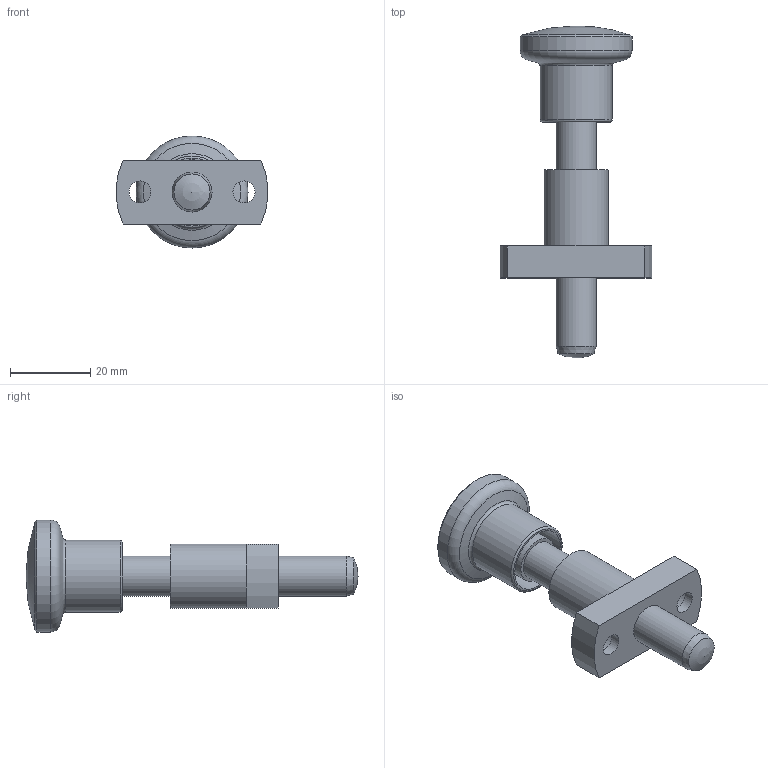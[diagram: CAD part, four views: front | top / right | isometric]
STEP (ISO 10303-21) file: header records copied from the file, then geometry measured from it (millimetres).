
FILE_DESCRIPTION( ( 'STEP AP203' ), '1' );
FILE_NAME( 'C:/Temp/Ganter_Step_05_03_2020/data/3_1/gn817_3/gn_817_3_b/Indexing plunger GN 817.3-10-32-B (activated).stp', '2020-03-12T09:03:03', ( 'License CC BY-ND 4.0' ), ( 'CADENAS' ), ' ', 'PARTsolutions', ' ' );
FILE_SCHEMA( ( 'CONFIG_CONTROL_DESIGN' ) );
Length unit declared in the file: millimetre
Products named in the file (3): Indexing plunger GN 817.3-10-32-B (activated); _Indexing plunger GN 817.3-10-32-B betaetigt-2; _Indexing plunger GN 817.3-10-32-B (activated)-1
Assembly tree (2 placements, depth 2):
  Indexing plunger GN 817.3-10-32-B (activated)
    _Indexing plunger GN 817.3-10-32-B betaetigt-2
    _Indexing plunger GN 817.3-10-32-B (activated)-1
Bounding box: 37.86 x 83 x 28 mm (x, y, z)
Volume: 16586.4 mm3; surface area: 9992.6 mm2
Topology: 2 solids, 2 shells, 40 faces, 77 edges, 48 vertices
Faces by surface type: cylinder 17, plane 15, cone 3, torus 3, sphere 2
Full cylindrical faces by diameter (mm): 5.5 x2, 9.4 x2, 10 x4, 11 x2, 11.8 x1, 16 x1, 16.1 x1, 18 x1, 28 x1
Entity records: 998 total; most frequent: DIRECTION 176, CARTESIAN_POINT 139, ORIENTED_EDGE 100, AXIS2_PLACEMENT_3D 83, EDGE_LOOP 76, FACE_OUTER_BOUND 58, EDGE_CURVE 50, VERTEX_POINT 46
